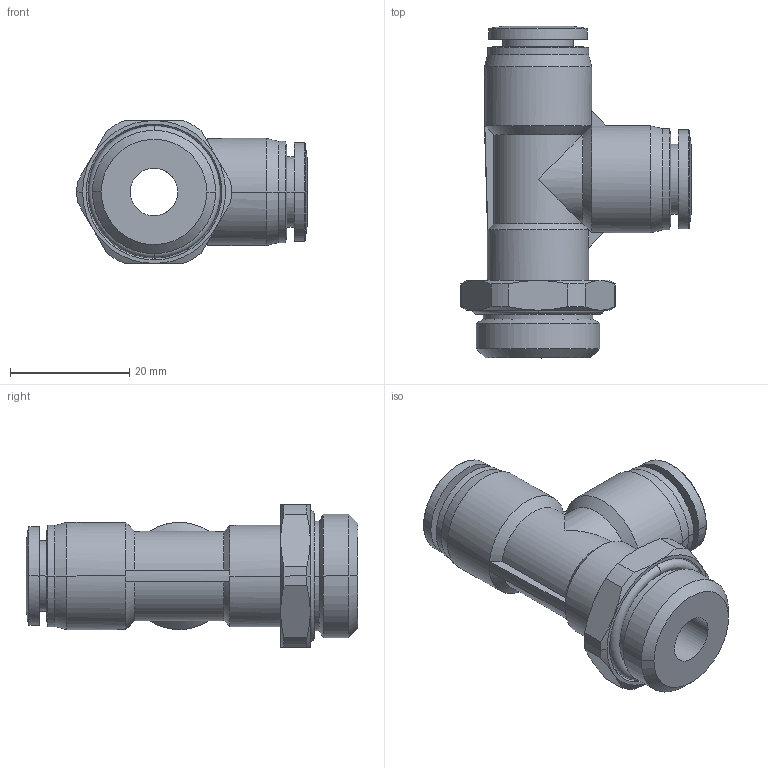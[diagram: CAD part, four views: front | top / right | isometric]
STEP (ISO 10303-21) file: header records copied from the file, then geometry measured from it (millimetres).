
FILE_DESCRIPTION (( 'STEP AP203' ), '1' );
FILE_NAME ('FLT10-04.STEP', '2020-05-12T14:18:38', ( '' ), ( '' ), 'SwSTEP 2.0', 'SolidWorks 2019', '' );
FILE_SCHEMA (( 'CONFIG_CONTROL_DESIGN' ));
Length unit declared in the file: millimetre
Products named in the file (1): FLT10-04
Bounding box: 38.75 x 55.75 x 24 mm (x, y, z)
Surface area: 8253.6 mm2 (no closed solid volume)
Topology: 0 solids, 4 shells, 122 faces, 302 edges, 191 vertices
Faces by surface type: cylinder 44, cone 38, plane 27, torus 8, bspline 5
Entity records: 6111 total; most frequent: CARTESIAN_POINT 3658, ORIENTED_EDGE 588, DIRECTION 307, EDGE_CURVE 302, B_SPLINE_CURVE_WITH_KNOTS 227, VERTEX_POINT 191, EDGE_LOOP 135, AXIS2_PLACEMENT_3D 126
